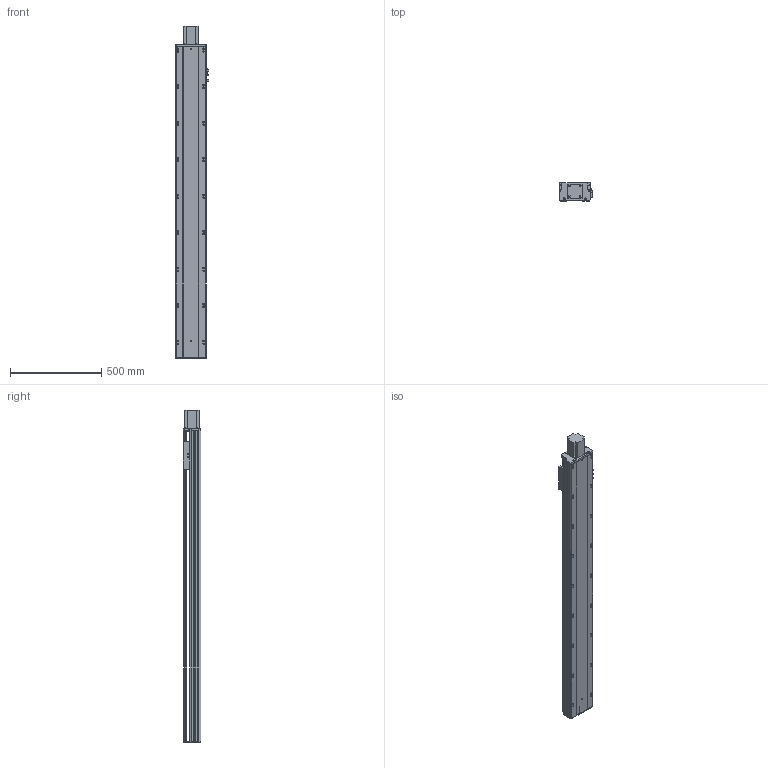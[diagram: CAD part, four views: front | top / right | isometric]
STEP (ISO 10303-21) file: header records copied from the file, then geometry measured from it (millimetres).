
FILE_DESCRIPTION (( 'STEP AP203' ), '1' );
FILE_NAME ('Y170-D10-S1450-BD-P750W.STEP', '2020-01-22T07:15:46', ( '微软用户' ), ( '微软中国' ), 'SwSTEP 2.0', 'SolidWorks 2017', '' );
FILE_SCHEMA (( 'CONFIG_CONTROL_DESIGN' ));
Length unit declared in the file: millimetre
Products named in the file (10): Y170-陔遴奻裔-BD; Y170--雄赽釱-梓--; YD-Y100-135-新外置传感挡片(通用）; Y170-D10-S1450-BD-P750W; Y100-135俋离換覜ん; 170--掛极-BD; Y170-萇儂楊擘啣--; 135-盓傅釱-FK15; 侂狟750W; Y170耜裔--準---
Assembly tree (11 placements, depth 2):
  Y170-D10-S1450-BD-P750W
    YD-Y100-135-新外置传感挡片(通用）
    Y100-135俋离換覜ん  x3
    170--掛极-BD
    Y170-萇儂楊擘啣--
    135-盓傅釱-FK15
    侂狟750W
    Y170耜裔--準---
    Y170-陔遴奻裔-BD
    Y170--雄赽釱-梓--
Bounding box: 183.5 x 97 x 1818.5 mm (x, y, z)
Volume: 7524688.2 mm3; surface area: 2601421.8 mm2
Topology: 11 solids, 11 shells, 852 faces, 2451 edges, 1624 vertices
Faces by surface type: cylinder 462, plane 388, torus 2
Entity records: 28111 total; most frequent: CARTESIAN_POINT 5147, DIRECTION 4665, ORIENTED_EDGE 4566, EDGE_CURVE 2283, AXIS2_PLACEMENT_3D 1686, VERTEX_POINT 1512, LINE 1293, VECTOR 1293
